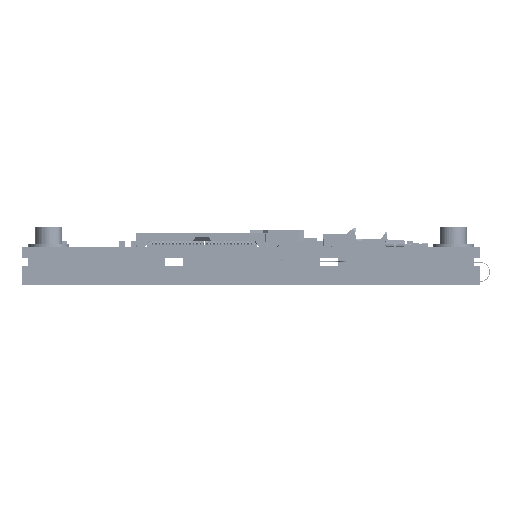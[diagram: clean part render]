
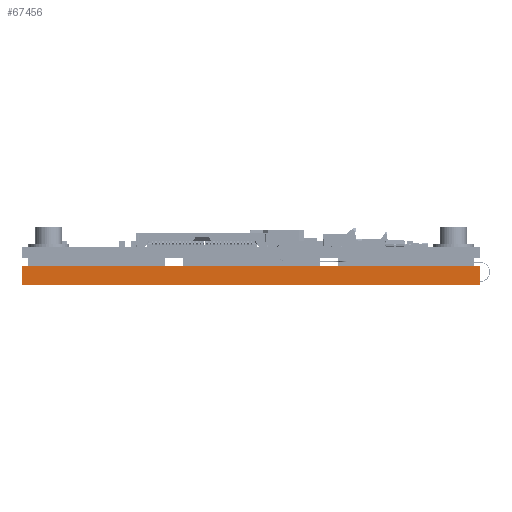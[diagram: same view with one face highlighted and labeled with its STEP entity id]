
A CAD part, left-side view. The second image highlights one B-rep face of the part: STEP entity #67456.
In plain terms, the highlighted planar face has unit normal (-1, 0, 0) as drawn and (1, 0, 0) by its records, which use the part's own axes.
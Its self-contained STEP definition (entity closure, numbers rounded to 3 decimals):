
#17983 = VERTEX_POINT ( 'NONE', #314112 ) ;
#18964 = EDGE_CURVE ( 'NONE', #345136, #17983, #411228, .T. ) ;
#27501 = DIRECTION ( 'NONE',  ( 0., -1., 0. ) ) ;
#34818 = ORIENTED_EDGE ( 'NONE', *, *, #555998, .F. ) ;
#67456 = ADVANCED_FACE ( 'NONE', ( #360608 ), #525020, .T. ) ;
#74569 = CARTESIAN_POINT ( 'NONE',  ( 105.5, 0., 0. ) ) ;
#136777 = CARTESIAN_POINT ( 'NONE',  ( 105.5, 0., 2.9 ) ) ;
#155445 = DIRECTION ( 'NONE',  ( 0., 1., 0. ) ) ;
#233958 = DIRECTION ( 'NONE',  ( 0., -1., 0. ) ) ;
#249403 = ORIENTED_EDGE ( 'NONE', *, *, #466381, .F. ) ;
#266417 = DIRECTION ( 'NONE',  ( 0., 0., -1. ) ) ;
#266456 = VECTOR ( 'NONE', #266417, 1000. ) ;
#286242 = LINE ( 'NONE', #74569, #384337 ) ;
#300048 = VECTOR ( 'NONE', #354034, 1000. ) ;
#314112 = CARTESIAN_POINT ( 'NONE',  ( 105.5, -67.15, 0. ) ) ;
#320032 = DIRECTION ( 'NONE',  ( 1., 0., 0. ) ) ;
#329822 = ORIENTED_EDGE ( 'NONE', *, *, #18964, .T. ) ;
#342255 = CARTESIAN_POINT ( 'NONE',  ( 105.5, 0., 0. ) ) ;
#344059 = LINE ( 'NONE', #350746, #300048 ) ;
#345136 = VERTEX_POINT ( 'NONE', #423894 ) ;
#350746 = CARTESIAN_POINT ( 'NONE',  ( 105.5, 0., 2.9 ) ) ;
#354034 = DIRECTION ( 'NONE',  ( 0., 0., -1. ) ) ;
#360608 = FACE_OUTER_BOUND ( 'NONE', #401437, .T. ) ;
#362743 = VERTEX_POINT ( 'NONE', #136777 ) ;
#384337 = VECTOR ( 'NONE', #27501, 1000. ) ;
#401437 = EDGE_LOOP ( 'NONE', ( #249403, #34818, #481512, #329822 ) ) ;
#404675 = CARTESIAN_POINT ( 'NONE',  ( 105.5, -67.15, 2.9 ) ) ;
#411228 = LINE ( 'NONE', #404675, #266456 ) ;
#423894 = CARTESIAN_POINT ( 'NONE',  ( 105.5, -67.15, 2.9 ) ) ;
#466381 = EDGE_CURVE ( 'NONE', #553162, #17983, #286242, .T. ) ;
#481512 = ORIENTED_EDGE ( 'NONE', *, *, #512524, .T. ) ;
#512524 = EDGE_CURVE ( 'NONE', #362743, #345136, #653633, .T. ) ;
#525020 = PLANE ( 'NONE',  #636992 ) ;
#553162 = VERTEX_POINT ( 'NONE', #342255 ) ;
#555998 = EDGE_CURVE ( 'NONE', #362743, #553162, #344059, .T. ) ;
#556198 = CARTESIAN_POINT ( 'NONE',  ( 105.5, 0., 2.9 ) ) ;
#615766 = CARTESIAN_POINT ( 'NONE',  ( 105.5, 0., 2.9 ) ) ;
#636992 = AXIS2_PLACEMENT_3D ( 'NONE', #615766, #320032, #155445 ) ;
#641303 = VECTOR ( 'NONE', #233958, 1000. ) ;
#653633 = LINE ( 'NONE', #556198, #641303 ) ;
